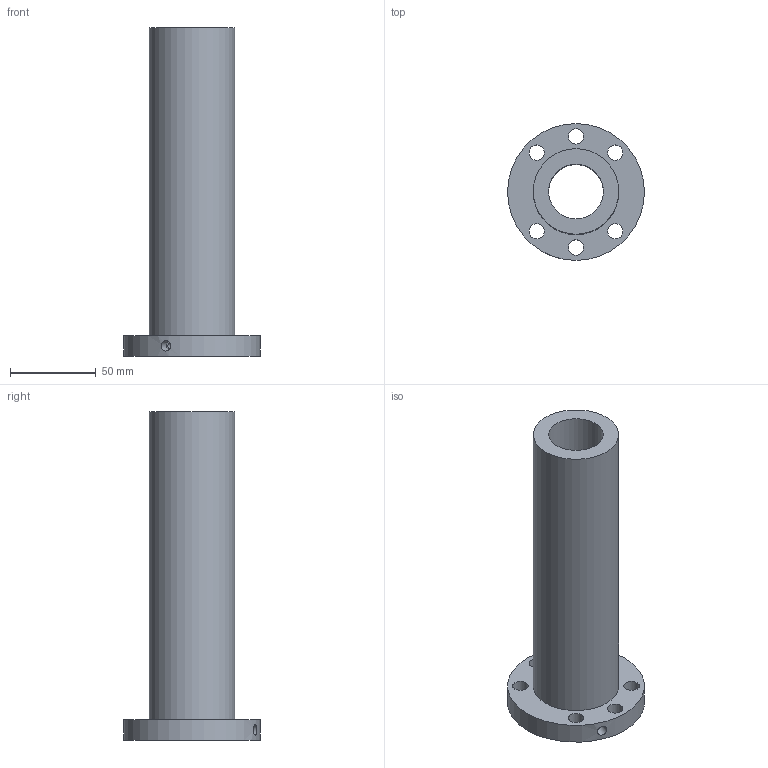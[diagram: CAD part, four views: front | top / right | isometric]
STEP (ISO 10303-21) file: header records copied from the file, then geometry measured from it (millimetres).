
FILE_DESCRIPTION(/* description */ (''),/* implementation_level */ '2;1');
FILE_NAME(/* name */ '32-40K2_3969',/* time_stamp */ '2007-10-15T12:54:00+08:00',/* author */ (''),/* organization */ (''),/* preprocessor_version */ 'ST-DEVELOPER v11',/* originating_system */ 'UGS - NX 5.0',/* authorisation */ '');
FILE_SCHEMA (('CONFIG_CONTROL_DESIGN'));
Length unit declared in the file: millimetre
Products named in the file (1): 32-40K2_3969
Bounding box: 80 x 80 x 192 mm (x, y, z)
Volume: 254325.1 mm3; surface area: 60635.6 mm2
Topology: 1 solids, 1 shells, 15 faces, 34 edges, 23 vertices
Faces by surface type: cylinder 11, plane 4
Full cylindrical faces by diameter (mm): 4 x1, 6 x1, 9 x6, 32 x1, 50 x1, 80 x1
Entity records: 600 total; most frequent: CARTESIAN_POINT 174, DIRECTION 72, FACE_BOUND 44, EDGE_LOOP 44, ORIENTED_EDGE 44, AXIS2_PLACEMENT_3D 36, VERTEX_POINT 22, EDGE_CURVE 22
